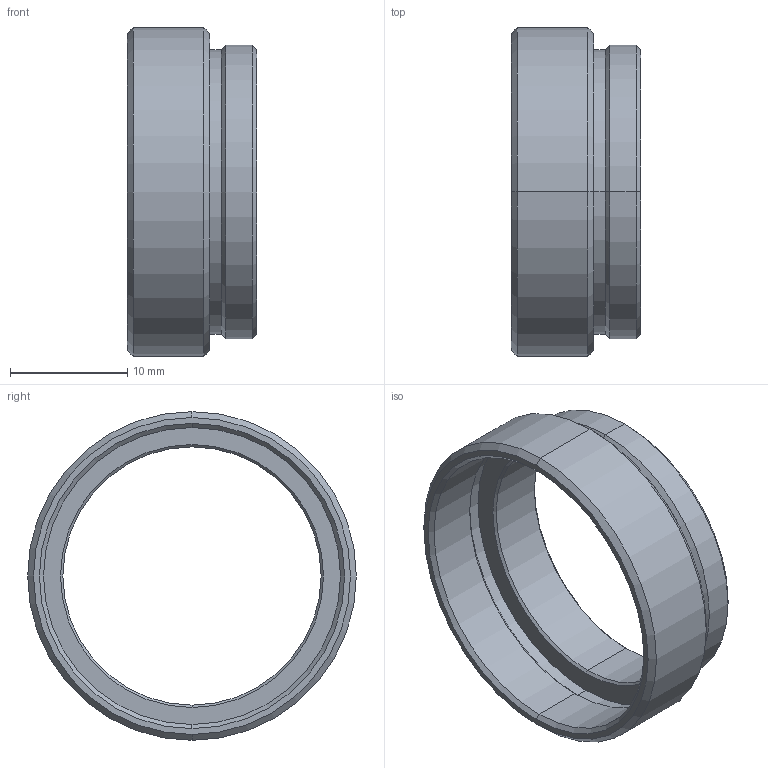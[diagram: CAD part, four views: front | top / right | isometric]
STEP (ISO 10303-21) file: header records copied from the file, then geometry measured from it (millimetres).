
FILE_DESCRIPTION (( 'STEP AP214' ), '1' );
FILE_NAME ('AD-MS1N-MT.STEP', '2019-07-30T00:53:07', ( '' ), ( '' ), 'SwSTEP 2.0', 'SolidWorks 2018', '' );
FILE_SCHEMA (( 'AUTOMOTIVE_DESIGN' ));
Length unit declared in the file: millimetre
Products named in the file (1): AD-MS1N-MT
Bounding box: 11 x 28 x 28 mm (x, y, z)
Volume: 1255.3 mm3; surface area: 2202.6 mm2
Topology: 1 solids, 1 shells, 32 faces, 64 edges, 36 vertices
Faces by surface type: cone 16, cylinder 12, plane 4
Entity records: 862 total; most frequent: DIRECTION 166, CARTESIAN_POINT 133, ORIENTED_EDGE 128, AXIS2_PLACEMENT_3D 69, EDGE_CURVE 64, VERTEX_POINT 36, CIRCLE 36, EDGE_LOOP 36
